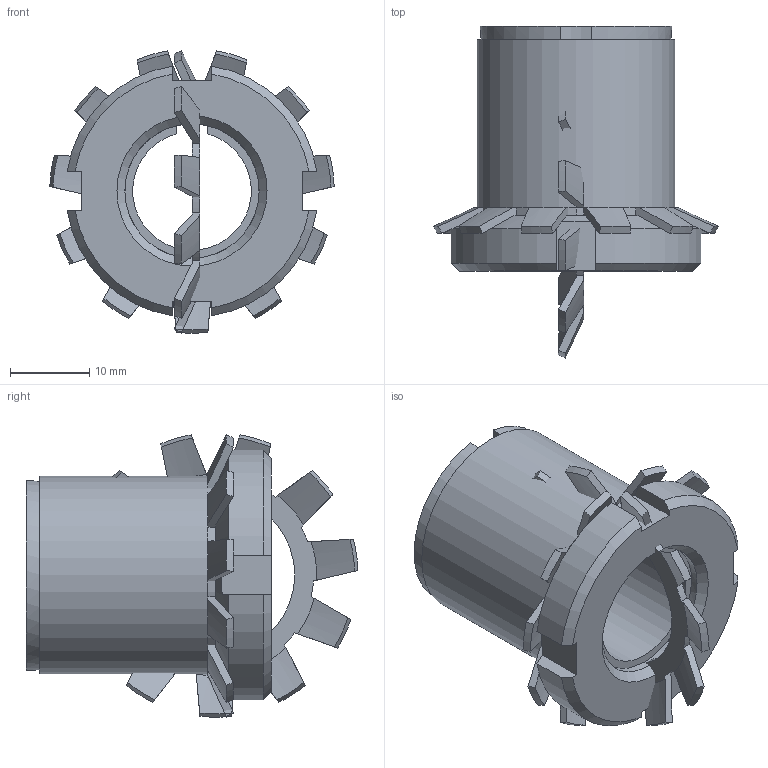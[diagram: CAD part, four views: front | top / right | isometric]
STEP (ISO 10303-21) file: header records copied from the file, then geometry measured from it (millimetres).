
FILE_DESCRIPTION( ( 'Unknown' ), '1' );
FILE_NAME( 'C:/Dokumente und Einstellungen/Sven/Desktop/homepage/cad - homepage/KBS55/KBS 55 - 15 x 25.stp', 'Unknown', ( 'Unknown' ), ( 'Unknown' ), 'XStep 1.0', 'Unknown', ' ' );
FILE_SCHEMA( ( 'automotive_design' ) );
Length unit declared in the file: millimetre
Products named in the file (3): Assem1; KBS 55 - 15 x 25; 08570040_locking_plate_din_5406_mb_4_2_14a
Bounding box: 35.98 x 41.99 x 35.72 mm (x, y, z)
Volume: 22572.6 mm3; surface area: 13017.2 mm2
Topology: 4 solids, 4 shells, 216 faces, 616 edges, 408 vertices
Faces by surface type: plane 96, cone 82, cylinder 38
Full cylindrical faces by diameter (mm): 17 x2, 25 x2
Entity records: 3880 total; most frequent: CARTESIAN_POINT 807, ORIENTED_EDGE 604, DIRECTION 572, EDGE_CURVE 302, AXIS2_PLACEMENT_3D 225, VERTEX_POINT 202, LINE 122, VECTOR 122
